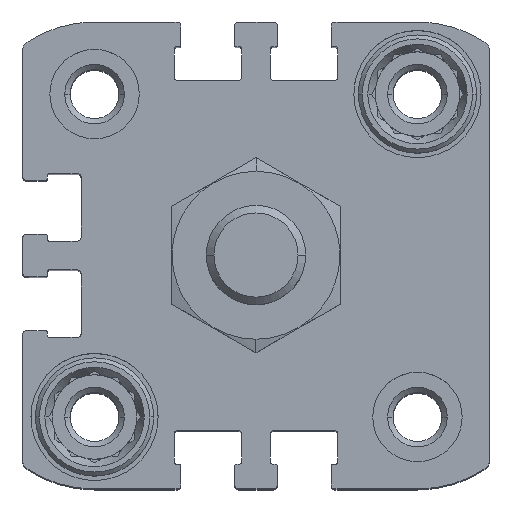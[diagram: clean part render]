
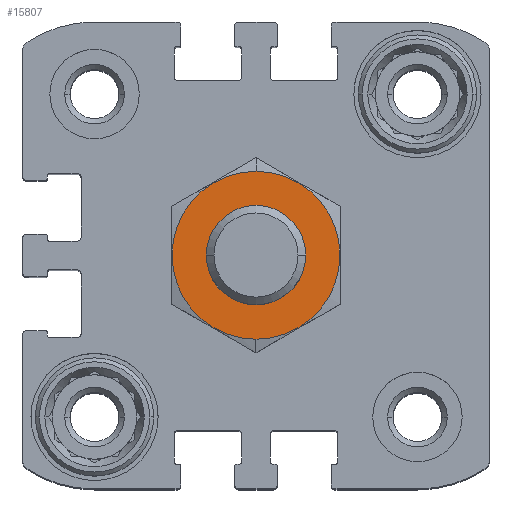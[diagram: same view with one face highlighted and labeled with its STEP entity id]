
A CAD part, top view. The second image highlights one B-rep face of the part: STEP entity #15807.
In plain terms, the highlighted planar face has unit normal (0, 0, 1) as drawn and (0, 1, 0) by its records, which use the part's own axes.
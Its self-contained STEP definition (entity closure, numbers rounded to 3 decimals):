
#460 = CIRCLE ( 'NONE', #5912, 5. ) ;
#755 = EDGE_CURVE ( 'NONE', #2331, #1284, #460, .T. ) ;
#1284 = VERTEX_POINT ( 'NONE', #9729 ) ;
#1298 = CIRCLE ( 'NONE', #9697, 5. ) ;
#2331 = VERTEX_POINT ( 'NONE', #10018 ) ;
#2568 = CIRCLE ( 'NONE', #3038, 8.45 ) ;
#2903 = ORIENTED_EDGE ( 'NONE', *, *, #755, .F. ) ;
#3038 = AXIS2_PLACEMENT_3D ( 'NONE', #4549, #13361, #5792 ) ;
#4492 = AXIS2_PLACEMENT_3D ( 'NONE', #12186, #13423, #5867 ) ;
#4549 = CARTESIAN_POINT ( 'NONE',  ( 0., 0., 0. ) ) ;
#4627 = PLANE ( 'NONE',  #4492 ) ;
#4719 = EDGE_LOOP ( 'NONE', ( #2903, #9193 ) ) ;
#5040 = EDGE_CURVE ( 'NONE', #9321, #12913, #2568, .T. ) ;
#5792 = DIRECTION ( 'NONE',  ( 0., 0., -1. ) ) ;
#5867 = DIRECTION ( 'NONE',  ( 0., 0., -1. ) ) ;
#5912 = AXIS2_PLACEMENT_3D ( 'NONE', #7104, #7221, #7002 ) ;
#6141 = ORIENTED_EDGE ( 'NONE', *, *, #5040, .F. ) ;
#6996 = ORIENTED_EDGE ( 'NONE', *, *, #10677, .F. ) ;
#7002 = DIRECTION ( 'NONE',  ( 0., 0., 1. ) ) ;
#7104 = CARTESIAN_POINT ( 'NONE',  ( 0., 0., 0. ) ) ;
#7221 = DIRECTION ( 'NONE',  ( 0., 1., 0. ) ) ;
#7374 = CARTESIAN_POINT ( 'NONE',  ( 0., 0., 0. ) ) ;
#7494 = CARTESIAN_POINT ( 'NONE',  ( 0., 0., 0. ) ) ;
#7977 = CIRCLE ( 'NONE', #8212, 8.45 ) ;
#8010 = FACE_BOUND ( 'NONE', #4719, .T. ) ;
#8212 = AXIS2_PLACEMENT_3D ( 'NONE', #7374, #16121, #8645 ) ;
#8645 = DIRECTION ( 'NONE',  ( 0., 0., -1. ) ) ;
#8773 = DIRECTION ( 'NONE',  ( 0., 0., 1. ) ) ;
#9193 = ORIENTED_EDGE ( 'NONE', *, *, #10224, .F. ) ;
#9321 = VERTEX_POINT ( 'NONE', #14883 ) ;
#9697 = AXIS2_PLACEMENT_3D ( 'NONE', #7494, #16252, #8773 ) ;
#9729 = CARTESIAN_POINT ( 'NONE',  ( 0., 0., -5. ) ) ;
#10018 = CARTESIAN_POINT ( 'NONE',  ( 0., 0., 5. ) ) ;
#10151 = CARTESIAN_POINT ( 'NONE',  ( 0., 0., 8.45 ) ) ;
#10224 = EDGE_CURVE ( 'NONE', #1284, #2331, #1298, .T. ) ;
#10399 = EDGE_LOOP ( 'NONE', ( #6141, #6996 ) ) ;
#10677 = EDGE_CURVE ( 'NONE', #12913, #9321, #7977, .T. ) ;
#11803 = FACE_OUTER_BOUND ( 'NONE', #10399, .T. ) ;
#12186 = CARTESIAN_POINT ( 'NONE',  ( 0., 0., 0. ) ) ;
#12913 = VERTEX_POINT ( 'NONE', #10151 ) ;
#13361 = DIRECTION ( 'NONE',  ( 0., -1., 0. ) ) ;
#13423 = DIRECTION ( 'NONE',  ( 0., -1., 0. ) ) ;
#14883 = CARTESIAN_POINT ( 'NONE',  ( 0., 0., -8.45 ) ) ;
#15807 = ADVANCED_FACE ( 'NONE', ( #8010, #11803 ), #4627, .F. ) ;
#16121 = DIRECTION ( 'NONE',  ( 0., -1., 0. ) ) ;
#16252 = DIRECTION ( 'NONE',  ( 0., 1., 0. ) ) ;
